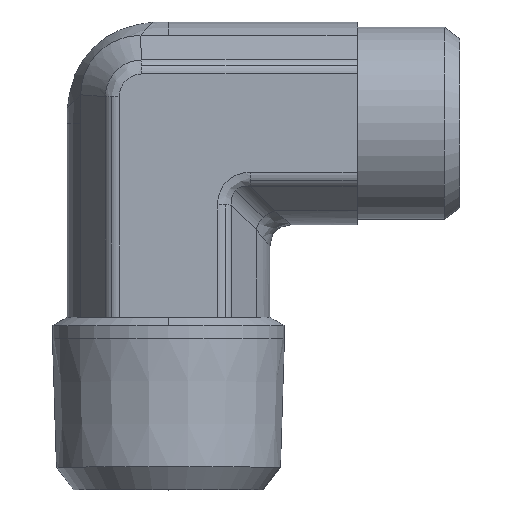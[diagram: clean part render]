
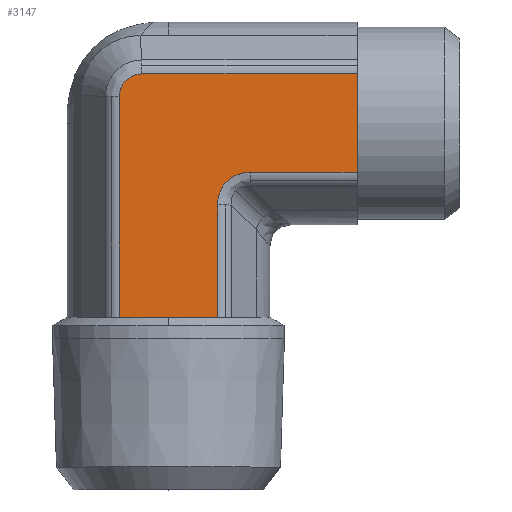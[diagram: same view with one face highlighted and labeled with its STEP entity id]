
A CAD part, top view. The second image highlights one B-rep face of the part: STEP entity #3147.
In plain terms, the highlighted planar face has unit normal (0, 0, 1) as drawn and (0, -1, 0) by its records, which use the part's own axes.
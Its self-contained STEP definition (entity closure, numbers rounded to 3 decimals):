
#319=CARTESIAN_POINT('',(3.092,-9.4,4.561));
#320=VERTEX_POINT('',#319);
#328=CARTESIAN_POINT('',(13.5,-9.4,4.561));
#329=VERTEX_POINT('',#328);
#330=CARTESIAN_POINT('',(3.092,-9.4,4.561));
#331=DIRECTION('',(1.0,0.0,0.0));
#332=VECTOR('',#331,10.408);
#333=LINE('',#330,#332);
#334=EDGE_CURVE('',#320,#329,#333,.T.);
#443=CARTESIAN_POINT('',(-9.061,-9.4,-2.461));
#444=VERTEX_POINT('',#443);
#452=CARTESIAN_POINT('',(-9.061,-9.4,17.5));
#453=VERTEX_POINT('',#452);
#454=CARTESIAN_POINT('',(-9.061,-9.4,-2.461));
#455=DIRECTION('',(0.0,0.0,1.0));
#456=VECTOR('',#455,19.961);
#457=LINE('',#454,#456);
#458=EDGE_CURVE('',#444,#453,#457,.T.);
#629=CARTESIAN_POINT('',(13.5,-9.4,0.));
#630=VERTEX_POINT('',#629);
#2088=CARTESIAN_POINT('',(0.061,-9.4,17.5));
#2089=VERTEX_POINT('',#2088);
#2090=CARTESIAN_POINT('',(0.061,-9.4,17.5));
#2091=DIRECTION('',(-1.0,0.0,0.0));
#2092=VECTOR('',#2091,9.122);
#2093=LINE('',#2090,#2092);
#2094=EDGE_CURVE('',#2089,#453,#2093,.T.);
#2451=CARTESIAN_POINT('',(13.5,-9.4,-4.561));
#2452=VERTEX_POINT('',#2451);
#2453=CARTESIAN_POINT('',(13.5,-9.4,-4.561));
#2454=DIRECTION('',(0.0,0.0,1.0));
#2455=VECTOR('',#2454,4.561);
#2456=LINE('',#2453,#2455);
#2457=EDGE_CURVE('',#2452,#630,#2456,.T.);
#2498=CARTESIAN_POINT('',(13.5,-9.4,0.));
#2499=DIRECTION('',(0.0,0.0,1.0));
#2500=VECTOR('',#2499,4.561);
#2501=LINE('',#2498,#2500);
#2502=EDGE_CURVE('',#630,#329,#2501,.T.);
#2832=CARTESIAN_POINT('',(-6.961,-9.4,-4.561));
#2833=VERTEX_POINT('',#2832);
#2841=CARTESIAN_POINT('',(-9.061,-9.4,-2.461));
#2842=CARTESIAN_POINT('',(-9.061,-9.4,-2.598));
#2843=CARTESIAN_POINT('',(-9.048,-9.4,-2.736));
#2844=CARTESIAN_POINT('',(-8.977,-9.4,-3.088));
#2845=CARTESIAN_POINT('',(-8.901,-9.4,-3.296));
#2846=CARTESIAN_POINT('',(-8.62,-9.4,-3.796));
#2847=CARTESIAN_POINT('',(-8.37,-9.4,-4.058));
#2848=CARTESIAN_POINT('',(-7.737,-9.4,-4.451));
#2849=CARTESIAN_POINT('',(-7.349,-9.4,-4.561));
#2850=CARTESIAN_POINT('',(-6.961,-9.4,-4.561));
#2851=B_SPLINE_CURVE_WITH_KNOTS('',3,(#2841,#2842,#2843,#2844,#2845,#2846,#2847,#2848,#2849,#2850),.UNSPECIFIED.,.F.,.U.,(4,2,2,2,4),(-3.281,-2.871,-2.215,-1.165,0.0),.UNSPECIFIED.);
#2852=EDGE_CURVE('',#2833,#444,#2851,.F.);
#2879=CARTESIAN_POINT('',(13.5,-9.4,-4.561));
#2880=DIRECTION('',(-1.0,0.0,0.0));
#2881=VECTOR('',#2880,20.461);
#2882=LINE('',#2879,#2881);
#2883=EDGE_CURVE('',#2452,#2833,#2882,.T.);
#3015=CARTESIAN_POINT('',(0.061,-9.4,7.592));
#3016=VERTEX_POINT('',#3015);
#3017=CARTESIAN_POINT('',(0.061,-9.4,17.5));
#3018=DIRECTION('',(0.0,0.0,-1.0));
#3019=VECTOR('',#3018,9.908);
#3020=LINE('',#3017,#3019);
#3021=EDGE_CURVE('',#2089,#3016,#3020,.T.);
#3104=CARTESIAN_POINT('',(4.103,-9.4,8.603));
#3105=DIRECTION('',(0.,-1.0,0.));
#3106=DIRECTION('',(-0.707,0.,-0.707));
#3107=AXIS2_PLACEMENT_3D('',#3104,#3105,#3106);
#3108=ELLIPSE('',#3107,4.518,3.5);
#3109=EDGE_CURVE('',#3016,#320,#3108,.T.);
#3131=CARTESIAN_POINT('',(-4.5,-9.4,-3.175));
#3132=DIRECTION('',(0.0,-1.0,0.0));
#3133=DIRECTION('',(0.0,0.0,-1.0));
#3134=AXIS2_PLACEMENT_3D('',#3131,#3132,#3133);
#3135=PLANE('',#3134);
#3136=ORIENTED_EDGE('',*,*,#2094,.T.);
#3137=ORIENTED_EDGE('',*,*,#458,.F.);
#3138=ORIENTED_EDGE('',*,*,#2852,.F.);
#3139=ORIENTED_EDGE('',*,*,#2883,.F.);
#3140=ORIENTED_EDGE('',*,*,#2457,.T.);
#3141=ORIENTED_EDGE('',*,*,#2502,.T.);
#3142=ORIENTED_EDGE('',*,*,#334,.F.);
#3143=ORIENTED_EDGE('',*,*,#3109,.F.);
#3144=ORIENTED_EDGE('',*,*,#3021,.F.);
#3145=EDGE_LOOP('',(#3136,#3137,#3138,#3139,#3140,#3141,#3142,#3143,#3144));
#3146=FACE_OUTER_BOUND('',#3145,.T.);
#3147=ADVANCED_FACE('',(#3146),#3135,.T.);
